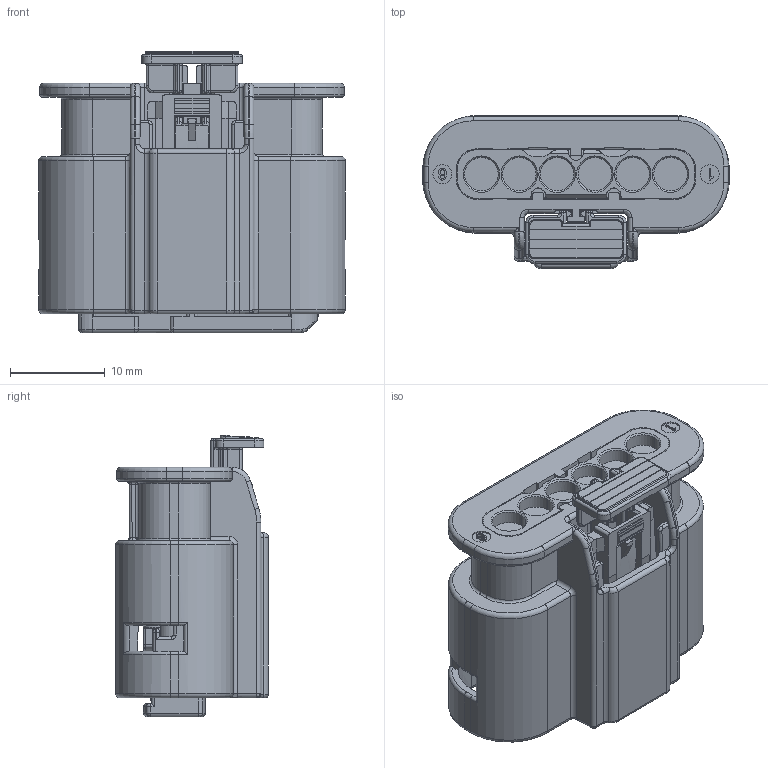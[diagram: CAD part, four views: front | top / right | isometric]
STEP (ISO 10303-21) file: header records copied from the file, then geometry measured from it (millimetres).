
FILE_DESCRIPTION((''),'2;1');
FILE_NAME('349006111','2015-11-13T',('gga'),(''),'PRO/ENGINEER BY PARAMETRIC TECHNOLOGY CORPORATION, 2011490','PRO/ENGINEER BY PARAMETRIC TECHNOLOGY CORPORATION, 2011490','');
FILE_SCHEMA(('CONFIG_CONTROL_DESIGN'));
Products named in the file (1): 349006111
Bounding box: 32.45 x 16.18 x 29.8 mm (x, y, z)
Volume: 6288.6 mm3; surface area: 8406.8 mm2
Topology: 1 solids, 1 shells, 1749 faces, 4642 edges, 2871 vertices
Faces by surface type: plane 791, cylinder 605, torus 152, bspline 143, cone 32, sphere 26
Entity records: 68283 total; most frequent: CARTESIAN_POINT 25660, ORIENTED_EDGE 9236, DIRECTION 8507, EDGE_CURVE 4618, VERTEX_POINT 2870, VECTOR 2839, LINE 2839, AXIS2_PLACEMENT_3D 2834
